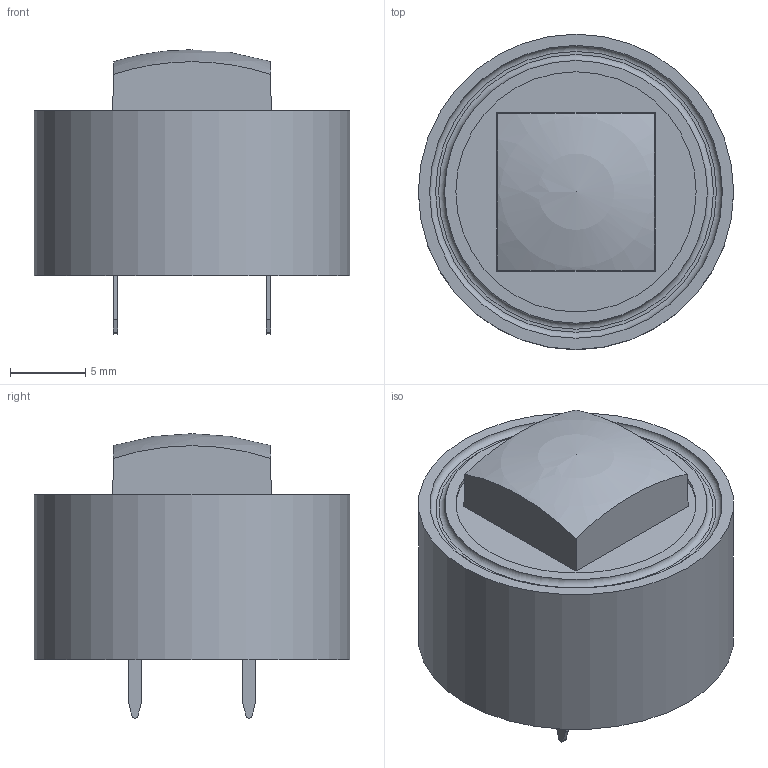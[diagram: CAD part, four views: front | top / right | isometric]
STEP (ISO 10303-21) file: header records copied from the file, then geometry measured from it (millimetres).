
FILE_DESCRIPTION(/* description */ (''),/* implementation_level */ '2;1');
FILE_NAME(/* name */ 'C:\Users\cgh.MEC\Desktop\Traceparts - 3D programserie\STEP filer\il-TH\5GTH9xxxxxxx+1TS+1TW.stp',/* time_stamp */ '2016-02-29T08:16:20+01:00',/* author */ ('cgh'),/* organization */ (''),/* preprocessor_version */ 'ST-DEVELOPER v15.2',/* originating_system */ 'Autodesk Inventor 2014',/* authorisation */ '');
FILE_SCHEMA (('AUTOMOTIVE_DESIGN { 1 0 10303 214 3 1 1 }'));
Length unit declared in the file: centimetre
Products named in the file (1): cgh
Bounding box: 21 x 21 x 18.95 mm (x, y, z)
Volume: 1983.2 mm3; surface area: 3807.2 mm2
Topology: 1 solids, 1 shells, 1362 faces, 3832 edges, 2498 vertices
Faces by surface type: plane 854, cylinder 224, bspline 164, torus 67, cone 42, sphere 11
Full cylindrical faces by diameter (mm): 0.9 x1, 1 x3, 2.8 x1, 4.73 x1, 6.5 x1, 7.2 x1, 7.44 x1, 16 x1, 18 x1, 21 x1
Entity records: 48552 total; most frequent: CARTESIAN_POINT 13045, ORIENTED_EDGE 7582, DIRECTION 6414, EDGE_CURVE 3783, VERTEX_POINT 2484, LINE 2436, VECTOR 2436, AXIS2_PLACEMENT_3D 1989
